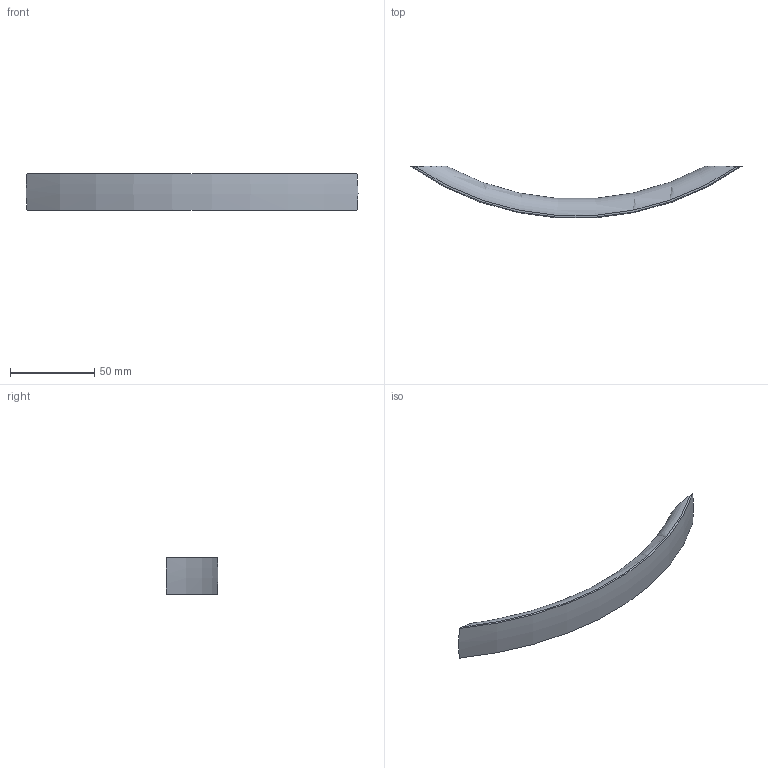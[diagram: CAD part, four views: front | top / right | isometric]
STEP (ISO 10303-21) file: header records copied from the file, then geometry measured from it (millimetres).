
FILE_DESCRIPTION( ( '' ), '1' );
FILE_NAME( 'C:/Documents and Settings/Sachin/Desktop/Sheet 10_1/stp/9113330.stp', '2013-10-22T08:57:49', ( '' ), ( '' ), ' ', ' ', ' ' );
FILE_SCHEMA( ( 'CONFIG_CONTROL_DESIGN' ) );
Length unit declared in the file: millimetre
Products named in the file (1): 1
Bounding box: 196.68 x 30.6 x 21.5 mm (x, y, z)
Volume: 26396.7 mm3; surface area: 18879.6 mm2
Topology: 1 solids, 1 shells, 29 faces, 75 edges, 50 vertices
Faces by surface type: torus 17, plane 8, cylinder 4
Entity records: 1652 total; most frequent: CARTESIAN_POINT 925, ORIENTED_EDGE 150, DIRECTION 130, EDGE_CURVE 75, AXIS2_PLACEMENT_3D 59, VERTEX_POINT 50, EDGE_LOOP 35, B_SPLINE_CURVE_WITH_KNOTS 34
